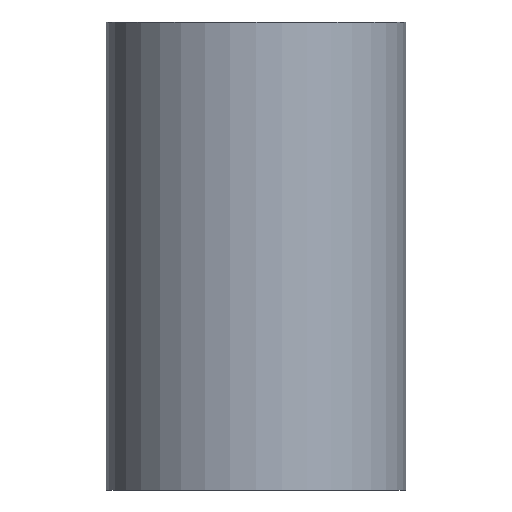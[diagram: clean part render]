
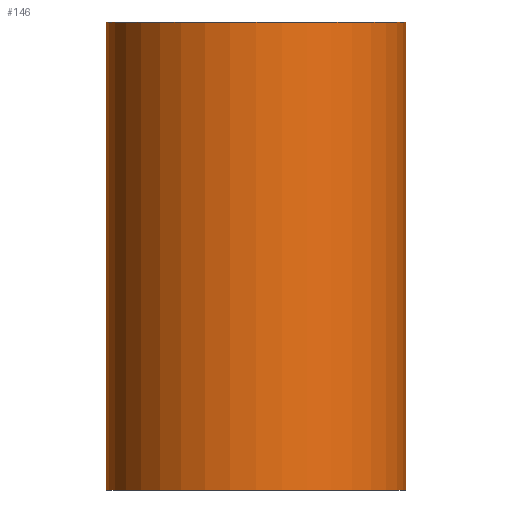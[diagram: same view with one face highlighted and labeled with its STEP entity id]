
A CAD part, front view. The second image highlights one B-rep face of the part: STEP entity #146.
In plain terms, the highlighted cylindrical face has radius 8 mm (diameter 16 mm), a full revolution.
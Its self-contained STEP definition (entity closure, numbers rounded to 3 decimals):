
#33=LINE('',#295,#37);
#37=VECTOR('',#244,8.);
#41=CYLINDRICAL_SURFACE('',#203,8.);
#50=FACE_OUTER_BOUND('',#59,.T.);
#59=EDGE_LOOP('',(#115,#116,#117,#118,#119,#120));
#68=CIRCLE('',#198,8.);
#69=CIRCLE('',#199,8.);
#72=CIRCLE('',#204,8.);
#73=CIRCLE('',#205,8.);
#80=VERTEX_POINT('',#280);
#81=VERTEX_POINT('',#281);
#84=VERTEX_POINT('',#291);
#85=VERTEX_POINT('',#292);
#92=EDGE_CURVE('',#80,#81,#68,.T.);
#93=EDGE_CURVE('',#81,#80,#69,.T.);
#97=EDGE_CURVE('',#84,#85,#72,.T.);
#98=EDGE_CURVE('',#85,#84,#73,.T.);
#99=EDGE_CURVE('',#85,#81,#33,.T.);
#115=ORIENTED_EDGE('',*,*,#97,.F.);
#116=ORIENTED_EDGE('',*,*,#98,.F.);
#117=ORIENTED_EDGE('',*,*,#99,.T.);
#118=ORIENTED_EDGE('',*,*,#92,.F.);
#119=ORIENTED_EDGE('',*,*,#93,.F.);
#120=ORIENTED_EDGE('',*,*,#99,.F.);
#146=ADVANCED_FACE('',(#50),#41,.T.);
#198=AXIS2_PLACEMENT_3D('',#282,#227,#228);
#199=AXIS2_PLACEMENT_3D('',#283,#229,#230);
#203=AXIS2_PLACEMENT_3D('',#290,#238,#239);
#204=AXIS2_PLACEMENT_3D('',#293,#240,#241);
#205=AXIS2_PLACEMENT_3D('',#294,#242,#243);
#227=DIRECTION('center_axis',(0.,0.,-1.));
#228=DIRECTION('ref_axis',(1.,0.,0.));
#229=DIRECTION('center_axis',(0.,0.,-1.));
#230=DIRECTION('ref_axis',(1.,0.,0.));
#238=DIRECTION('center_axis',(0.,0.,1.));
#239=DIRECTION('ref_axis',(1.,0.,0.));
#240=DIRECTION('center_axis',(0.,0.,1.));
#241=DIRECTION('ref_axis',(1.,0.,0.));
#242=DIRECTION('center_axis',(0.,0.,1.));
#243=DIRECTION('ref_axis',(1.,0.,0.));
#244=DIRECTION('',(0.,0.,-1.));
#280=CARTESIAN_POINT('',(8.,0.,-12.5));
#281=CARTESIAN_POINT('',(-8.,0.,-12.5));
#282=CARTESIAN_POINT('Origin',(0.,0.,-12.5));
#283=CARTESIAN_POINT('Origin',(0.,0.,-12.5));
#290=CARTESIAN_POINT('Origin',(0.,0.,0.));
#291=CARTESIAN_POINT('',(8.,0.,12.5));
#292=CARTESIAN_POINT('',(-8.,0.,12.5));
#293=CARTESIAN_POINT('Origin',(0.,0.,12.5));
#294=CARTESIAN_POINT('Origin',(0.,0.,12.5));
#295=CARTESIAN_POINT('',(-8.,0.,0.));
